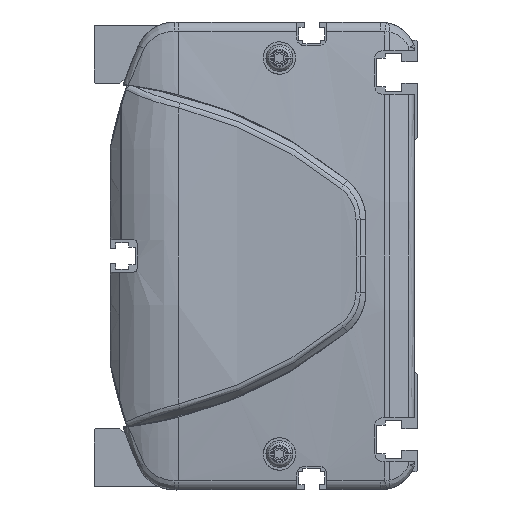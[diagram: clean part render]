
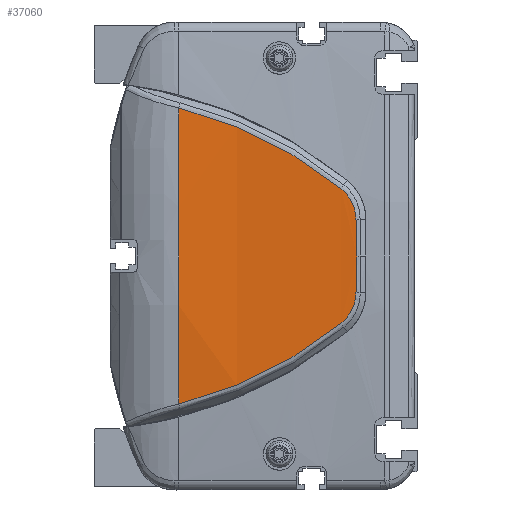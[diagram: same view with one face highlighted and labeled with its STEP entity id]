
A CAD part, left-side view. The second image highlights one B-rep face of the part: STEP entity #37060.
In plain terms, the highlighted cylindrical face has radius 500 mm (diameter 1000 mm), a partial arc.
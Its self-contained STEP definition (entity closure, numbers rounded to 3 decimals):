
#33230=CARTESIAN_POINT('',(486.,66.362,0.));
#33231=DIRECTION('',(0.,-1.,0.));
#33232=DIRECTION('',(-0.997,0.,0.082));
#33233=AXIS2_PLACEMENT_3D('',#33230,#33231,#33232);
#34120=CARTESIAN_POINT('',(-13.648,21.313,
-18.759));
#34121=CARTESIAN_POINT('',(-13.449,27.904,
-24.058));
#34122=CARTESIAN_POINT('',(-12.934,42.195,
-33.27));
#34123=CARTESIAN_POINT('',(-12.471,58.156,
-39.127));
#34124=CARTESIAN_POINT('',(-12.306,66.362,
-41.121));
#34126=CARTESIAN_POINT('',(-12.306,66.362,
41.121));
#34127=CARTESIAN_POINT('',(-12.471,58.156,
39.127));
#34128=CARTESIAN_POINT('',(-12.934,42.195,
33.27));
#34129=CARTESIAN_POINT('',(-13.449,27.904,
24.058));
#34130=CARTESIAN_POINT('',(-13.648,21.313,
18.759));
#34132=CARTESIAN_POINT('',(-13.648,21.313,
18.759));
#34133=CARTESIAN_POINT('',(-13.686,20.035,
17.736));
#34134=CARTESIAN_POINT('',(-13.779,17.936,
15.107));
#34135=CARTESIAN_POINT('',(-13.863,17.152,
11.827));
#34136=CARTESIAN_POINT('',(-13.896,17.124,
10.178));
#34138=CARTESIAN_POINT('',(-13.896,17.124,
10.178));
#34139=CARTESIAN_POINT('',(-13.92,17.107,
9.024));
#34140=CARTESIAN_POINT('',(-13.959,17.067,
6.73));
#34141=CARTESIAN_POINT('',(-13.993,16.979,
3.336));
#34142=CARTESIAN_POINT('',(-14.,16.898,
1.107));
#34143=CARTESIAN_POINT('',(-14.,16.849,
0.));
#34145=CARTESIAN_POINT('',(-14.,16.849,
0.));
#34146=CARTESIAN_POINT('',(-14.,16.898,
-1.107));
#34147=CARTESIAN_POINT('',(-13.993,16.979,
-3.336));
#34148=CARTESIAN_POINT('',(-13.959,17.067,
-6.73));
#34149=CARTESIAN_POINT('',(-13.92,17.107,
-9.026));
#34150=CARTESIAN_POINT('',(-13.896,17.124,
-10.18));
#34152=CARTESIAN_POINT('',(-13.896,17.124,
-10.18));
#34153=CARTESIAN_POINT('',(-13.863,17.152,
-11.828));
#34154=CARTESIAN_POINT('',(-13.779,17.937,
-15.109));
#34155=CARTESIAN_POINT('',(-13.686,20.035,
-17.736));
#34156=CARTESIAN_POINT('',(-13.648,21.313,
-18.759));
#34839=VERTEX_POINT('',#34120);
#34840=VERTEX_POINT('',#34124);
#34841=CARTESIAN_POINT('',(-12.306,66.362,
41.121));
#34842=VERTEX_POINT('',#34841);
#34843=VERTEX_POINT('',#34130);
#34844=VERTEX_POINT('',#34136);
#34845=VERTEX_POINT('',#34143);
#34846=VERTEX_POINT('',#34150);
#37041=CARTESIAN_POINT('',(486.,8.006,0.));
#37042=DIRECTION('',(0.,1.,0.));
#37043=DIRECTION('',(1.,0.,0.));
#37044=AXIS2_PLACEMENT_3D('',#37041,#37042,#37043);
#37045=CYLINDRICAL_SURFACE('',#37044,500.);
#37047=ORIENTED_EDGE('',*,*,#37046,.T.);
#37048=ORIENTED_EDGE('',*,*,#35693,.F.);
#37050=ORIENTED_EDGE('',*,*,#37049,.T.);
#37052=ORIENTED_EDGE('',*,*,#37051,.T.);
#37054=ORIENTED_EDGE('',*,*,#37053,.T.);
#37056=ORIENTED_EDGE('',*,*,#37055,.T.);
#37057=ORIENTED_EDGE('',*,*,#37031,.T.);
#37058=EDGE_LOOP('',(#37047,#37048,#37050,#37052,#37054,#37056,#37057));
#37059=FACE_OUTER_BOUND('',#37058,.F.);
#37060=ADVANCED_FACE('',(#37059),#37045,.T.);
#33234=CIRCLE('',#33233,500.);
#34125=B_SPLINE_CURVE_WITH_KNOTS('',3,(#34120,#34121,#34122,#34123,#34124),
.UNSPECIFIED.,.F.,.F.,(4,1,4),(0.,0.5,1.),.UNSPECIFIED.);
#34131=B_SPLINE_CURVE_WITH_KNOTS('',3,(#34126,#34127,#34128,#34129,#34130),
.UNSPECIFIED.,.F.,.F.,(4,1,4),(0.,0.5,1.),.UNSPECIFIED.);
#34137=B_SPLINE_CURVE_WITH_KNOTS('',3,(#34132,#34133,#34134,#34135,#34136),
.UNSPECIFIED.,.F.,.F.,(4,1,4),(0.,0.5,1.),.UNSPECIFIED.);
#34144=B_SPLINE_CURVE_WITH_KNOTS('',3,(#34138,#34139,#34140,#34141,#34142,
#34143),.UNSPECIFIED.,.F.,.F.,(4,1,1,4),(0.,0.333,
0.667,1.),.UNSPECIFIED.);
#34151=B_SPLINE_CURVE_WITH_KNOTS('',3,(#34145,#34146,#34147,#34148,#34149,
#34150),.UNSPECIFIED.,.F.,.F.,(4,1,1,4),(0.,0.333,
0.667,1.),.UNSPECIFIED.);
#34157=B_SPLINE_CURVE_WITH_KNOTS('',3,(#34152,#34153,#34154,#34155,#34156),
.UNSPECIFIED.,.F.,.F.,(4,1,4),(0.,0.5,1.),.UNSPECIFIED.);
#35693=EDGE_CURVE('',#34842,#34840,#33234,.T.);
#37031=EDGE_CURVE('',#34846,#34839,#34157,.T.);
#37046=EDGE_CURVE('',#34839,#34840,#34125,.T.);
#37049=EDGE_CURVE('',#34842,#34843,#34131,.T.);
#37051=EDGE_CURVE('',#34843,#34844,#34137,.T.);
#37053=EDGE_CURVE('',#34844,#34845,#34144,.T.);
#37055=EDGE_CURVE('',#34845,#34846,#34151,.T.);
